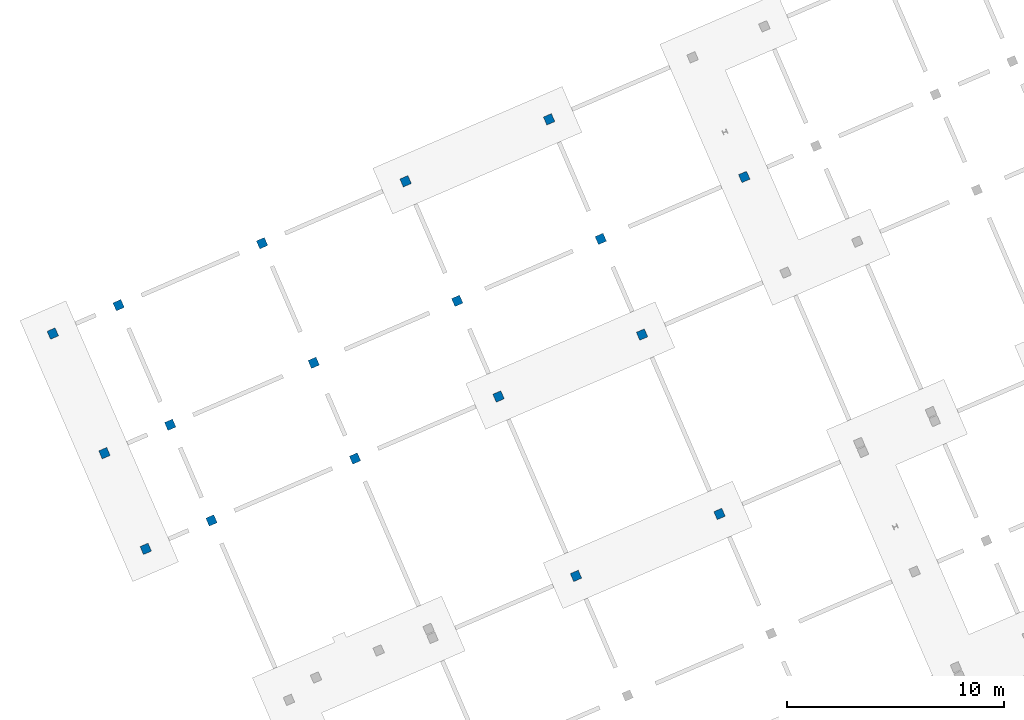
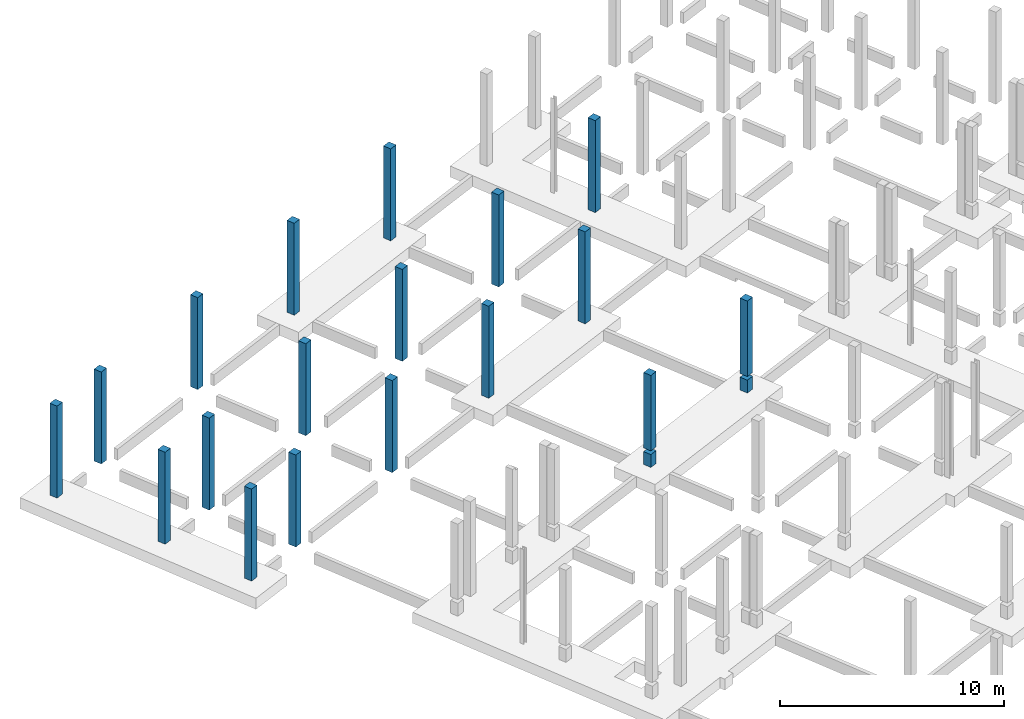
# One storey, part 5 of 11: 18 columns.
"""IFC4 building model written with IfcOpenShell, lengths in metres."""

from ifc_helpers import new_model, entity, si_unit, converted_unit, derived_unit, direction, frame, origin, place, context, subcontext, project, spatial, indexed_curve, outline, extrude, source, transform, mapped, material, type_object, type_shapes, element, save


model = new_model("IFC4")

# Units and contexts
model_context = context("Model", 3, precision=1e-05, world=origin(), true_north=direction((6.12323399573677e-17, 1.0)))
body_context = subcontext(model_context, "Body", "Model", "MODEL_VIEW")
ifc_project = project(units=[si_unit("LENGTHUNIT", "METRE"), si_unit("AREAUNIT", "SQUARE_METRE"), si_unit("VOLUMEUNIT", "CUBIC_METRE"), converted_unit("PLANEANGLEUNIT", "DEGREE", entity("IfcPlaneAngleMeasure", 0.0174532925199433), si_unit("PLANEANGLEUNIT", "RADIAN"), dimensions=[0, 0, 0, 0, 0, 0, 0]), si_unit("MASSUNIT", "GRAM", prefix="KILO"), derived_unit("MOMENTOFINERTIAUNIT", [(si_unit("LENGTHUNIT", "METRE"), 4)]), derived_unit("LINEARFORCEUNIT", [(si_unit("MASSUNIT", "GRAM", prefix="KILO"), 1), (si_unit("TIMEUNIT", "SECOND"), -2)]), derived_unit("WARPINGCONSTANTUNIT", [(si_unit("LENGTHUNIT", "METRE"), 6)]), derived_unit("THERMALTRANSMITTANCEUNIT", [(si_unit("MASSUNIT", "GRAM", prefix="KILO"), 1), (si_unit("THERMODYNAMICTEMPERATUREUNIT", "KELVIN"), -1), (si_unit("TIMEUNIT", "SECOND"), -3)]), derived_unit("USERDEFINED", [(si_unit("MASSUNIT", "GRAM", prefix="KILO"), 1), (si_unit("TIMEUNIT", "SECOND"), -2), (si_unit("THERMODYNAMICTEMPERATUREUNIT", "KELVIN"), -1)]), derived_unit("THERMALRESISTANCEUNIT", [(si_unit("MASSUNIT", "GRAM", prefix="KILO"), -1), (si_unit("TIMEUNIT", "SECOND"), 3), (si_unit("THERMODYNAMICTEMPERATUREUNIT", "KELVIN"), 1)])], contexts=[model_context])

# Site, building, storey
site_placement = place(None, origin())
site = spatial("IfcSite", under=ifc_project, at=site_placement, Name="Default", CompositionType="ELEMENT")
building_placement = place(site_placement, frame((12.6613425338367, -82.5732315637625, 317.15), z_axis=(0.0, 0.0, 1.0), x_axis=(-0.396377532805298, 0.918087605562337, 0.0)))
building = spatial("IfcBuilding", under=site, at=building_placement, Name="CESFAM Coyhaique", CompositionType="ELEMENT")
storey_placement = place(building_placement, frame((0.0, 0.0, -0.950000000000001)))
storey = spatial("IfcBuildingStorey", under=building, at=storey_placement, Name="d_Fundaciones", CompositionType="ELEMENT", Elevation=-0.950000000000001)

# Columns
ifc_material = material(Name="HA")
column_type_1 = type_object("IfcColumnType", Name="M_Concrete-Square-Column:400 x 400mm", PredefinedType="COLUMN", material=ifc_material)
shared_shape_1 = source(origin(), body_context, "Body", "SweptSolid", [
    extrude(outline(indexed_curve([(-0.199999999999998, -0.2), (0.200000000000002, -0.2), (0.200000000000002, 0.2), (-0.199999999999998, 0.2), (-0.199999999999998, -0.2)], self_intersect=False)), frame((34.768853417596, 2.8028504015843, -0.950000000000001), z_axis=(0.0, 0.0, 1.0), x_axis=(-1.0, 0.0, 0.0)), (0.0, 0.0, 1.0), 0.7),
    extrude(outline(indexed_curve([(-0.199999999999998, -0.2), (0.200000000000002, -0.2), (0.200000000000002, 0.2), (-0.199999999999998, 0.2), (-0.199999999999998, -0.2)], self_intersect=False)), frame((34.768853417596, 2.8028504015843, -0.0500000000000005), z_axis=(0.0, 0.0, 1.0), x_axis=(-1.0, 0.0, 0.0)), (0.0, 0.0, 1.0), 4.10000000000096),
])
type_shapes(column_type_1, [shared_shape_1])
column_1_placement = place(storey_placement, frame((0.0, 0.0, 0.950000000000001)))
element("IfcColumn", 1, at=column_1_placement, inside=storey, type_object=column_type_1, Name="M_Concrete-Square-Column:400 x 400mm", ObjectType="M_Concrete-Square-Column:400 x 400mm", PredefinedType="COLUMN", context=body_context, shape_type="MappedRepresentation", body=[
    mapped(shared_shape_1, transform((0.0, 0.0, 0.0), scale=1.0)),
])
column_type_2 = type_object("IfcColumnType", Name="M_Concrete-Square-Column:400 x 400mm", PredefinedType="COLUMN", material=ifc_material)
shared_shape_2 = source(origin(), body_context, "Body", "SweptSolid", [
    extrude(outline(indexed_curve([(-0.199999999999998, -0.2), (0.200000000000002, -0.2), (0.200000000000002, 0.2), (-0.199999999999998, 0.2), (-0.199999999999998, -0.2)], self_intersect=False)), frame((34.768853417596, -4.39714959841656, -0.950000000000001), z_axis=(0.0, 0.0, 1.0), x_axis=(-1.0, 0.0, 0.0)), (0.0, 0.0, 1.0), 0.7),
    extrude(outline(indexed_curve([(-0.199999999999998, -0.2), (0.200000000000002, -0.2), (0.200000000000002, 0.2), (-0.199999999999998, 0.2), (-0.199999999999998, -0.2)], self_intersect=False)), frame((34.768853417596, -4.39714959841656, -0.0500000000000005), z_axis=(0.0, 0.0, 1.0), x_axis=(-1.0, 0.0, 0.0)), (0.0, 0.0, 1.0), 4.10000000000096),
])
type_shapes(column_type_2, [shared_shape_2])
column_2_placement = place(storey_placement, frame((0.0, 0.0, 0.950000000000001)))
element("IfcColumn", 2, at=column_2_placement, inside=storey, type_object=column_type_2, Name="M_Concrete-Square-Column:400 x 400mm", ObjectType="M_Concrete-Square-Column:400 x 400mm", PredefinedType="COLUMN", context=body_context, shape_type="MappedRepresentation", body=[
    mapped(shared_shape_2, transform((0.0, 0.0, 0.0), scale=1.0)),
])
column_type_3 = type_object("IfcColumnType", Name="M_Concrete-Square-Column:400 x 400mm", PredefinedType="COLUMN", material=ifc_material)
shared_shape_3 = source(origin(), body_context, "Body", "SweptSolid", [
    extrude(outline(indexed_curve([(-0.199999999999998, -0.2), (0.199999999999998, -0.2), (0.199999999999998, 0.2), (-0.199999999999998, 0.2), (-0.199999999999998, -0.2)], self_intersect=False)), frame((43.7688534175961, 17.2028504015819, -0.950000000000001), z_axis=(0.0, 0.0, 1.0), x_axis=(-1.0, 0.0, 0.0)), (0.0, 0.0, 1.0), 5.00000000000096),
])
type_shapes(column_type_3, [shared_shape_3])
column_3_placement = place(storey_placement, frame((0.0, 0.0, 0.950000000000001)))
element("IfcColumn", 3, at=column_3_placement, inside=storey, type_object=column_type_3, Name="M_Concrete-Square-Column:400 x 400mm", ObjectType="M_Concrete-Square-Column:400 x 400mm", PredefinedType="COLUMN", context=body_context, shape_type="MappedRepresentation", body=[
    mapped(shared_shape_3, transform((0.0, 0.0, 0.0), scale=1.0)),
])
column_type_4 = type_object("IfcColumnType", Name="M_Concrete-Square-Column:400 x 400mm", PredefinedType="COLUMN", material=ifc_material)
shared_shape_4 = source(origin(), body_context, "Body", "SweptSolid", [
    extrude(outline(indexed_curve([(-0.199999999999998, -0.2), (0.199999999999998, -0.2), (0.199999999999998, 0.2), (-0.199999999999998, 0.2), (-0.199999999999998, -0.2)], self_intersect=False)), frame((43.7688534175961, 10.0028504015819, -0.950000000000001), z_axis=(0.0, 0.0, 1.0), x_axis=(-1.0, 0.0, 0.0)), (0.0, 0.0, 1.0), 5.00000000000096),
])
type_shapes(column_type_4, [shared_shape_4])
column_4_placement = place(storey_placement, frame((0.0, 0.0, 0.950000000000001)))
element("IfcColumn", 4, at=column_4_placement, inside=storey, type_object=column_type_4, Name="M_Concrete-Square-Column:400 x 400mm", ObjectType="M_Concrete-Square-Column:400 x 400mm", PredefinedType="COLUMN", context=body_context, shape_type="MappedRepresentation", body=[
    mapped(shared_shape_4, transform((0.0, 0.0, 0.0), scale=1.0)),
])
column_type_5 = type_object("IfcColumnType", Name="M_Concrete-Square-Column:400 x 400mm", PredefinedType="COLUMN", material=ifc_material)
shared_shape_5 = source(origin(), body_context, "Body", "SweptSolid", [
    extrude(outline(indexed_curve([(-0.199999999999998, -0.2), (0.199999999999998, -0.2), (0.199999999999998, 0.2), (-0.199999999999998, 0.2), (-0.199999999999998, -0.2)], self_intersect=False)), frame((43.7688534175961, 2.8028504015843, -0.950000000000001), z_axis=(0.0, 0.0, 1.0), x_axis=(-1.0, 0.0, 0.0)), (0.0, 0.0, 1.0), 5.00000000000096),
])
type_shapes(column_type_5, [shared_shape_5])
column_5_placement = place(storey_placement, frame((0.0, 0.0, 0.950000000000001)))
element("IfcColumn", 5, at=column_5_placement, inside=storey, type_object=column_type_5, Name="M_Concrete-Square-Column:400 x 400mm", ObjectType="M_Concrete-Square-Column:400 x 400mm", PredefinedType="COLUMN", context=body_context, shape_type="MappedRepresentation", body=[
    mapped(shared_shape_5, transform((0.0, 0.0, 0.0), scale=1.0)),
])
column_type_6 = type_object("IfcColumnType", Name="M_Concrete-Square-Column:400 x 400mm", PredefinedType="COLUMN", material=ifc_material)
shared_shape_6 = source(origin(), body_context, "Body", "SweptSolid", [
    extrude(outline(indexed_curve([(-0.199999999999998, -0.2), (0.199999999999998, -0.2), (0.199999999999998, 0.2), (-0.199999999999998, 0.2), (-0.199999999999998, -0.2)], self_intersect=False)), frame((43.7688534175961, -4.39714959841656, -0.950000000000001), z_axis=(0.0, 0.0, 1.0), x_axis=(-1.0, 0.0, 0.0)), (0.0, 0.0, 1.0), 5.00000000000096),
])
type_shapes(column_type_6, [shared_shape_6])
column_6_placement = place(storey_placement, frame((0.0, 0.0, 0.950000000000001)))
element("IfcColumn", 6, at=column_6_placement, inside=storey, type_object=column_type_6, Name="M_Concrete-Square-Column:400 x 400mm", ObjectType="M_Concrete-Square-Column:400 x 400mm", PredefinedType="COLUMN", context=body_context, shape_type="MappedRepresentation", body=[
    mapped(shared_shape_6, transform((0.0, 0.0, 0.0), scale=1.0)),
])
column_type_7 = type_object("IfcColumnType", Name="M_Concrete-Square-Column:400 x 400mm", PredefinedType="COLUMN", material=ifc_material)
shared_shape_7 = source(origin(), body_context, "Body", "SweptSolid", [
    extrude(outline(indexed_curve([(-0.199999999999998, -0.2), (0.199999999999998, -0.2), (0.199999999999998, 0.2), (-0.199999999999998, 0.2), (-0.199999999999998, -0.2)], self_intersect=False)), frame((48.5688534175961, 17.2028504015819, -0.950000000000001), z_axis=(0.0, 0.0, 1.0), x_axis=(-1.0, 0.0, 0.0)), (0.0, 0.0, 1.0), 5.00000000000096),
])
type_shapes(column_type_7, [shared_shape_7])
column_7_placement = place(storey_placement, frame((0.0, 0.0, 0.950000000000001)))
element("IfcColumn", 7, at=column_7_placement, inside=storey, type_object=column_type_7, Name="M_Concrete-Square-Column:400 x 400mm", ObjectType="M_Concrete-Square-Column:400 x 400mm", PredefinedType="COLUMN", context=body_context, shape_type="MappedRepresentation", body=[
    mapped(shared_shape_7, transform((0.0, 0.0, 0.0), scale=1.0)),
])
column_type_8 = type_object("IfcColumnType", Name="M_Concrete-Square-Column:400 x 400mm", PredefinedType="COLUMN", material=ifc_material)
shared_shape_8 = source(origin(), body_context, "Body", "SweptSolid", [
    extrude(outline(indexed_curve([(-0.199999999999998, -0.2), (0.199999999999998, -0.2), (0.199999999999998, 0.2), (-0.199999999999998, 0.2), (-0.199999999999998, -0.2)], self_intersect=False)), frame((48.5688534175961, 10.0028504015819, -0.950000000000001), z_axis=(0.0, 0.0, 1.0), x_axis=(-1.0, 0.0, 0.0)), (0.0, 0.0, 1.0), 5.00000000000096),
])
type_shapes(column_type_8, [shared_shape_8])
column_8_placement = place(storey_placement, frame((0.0, 0.0, 0.950000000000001)))
element("IfcColumn", 8, at=column_8_placement, inside=storey, type_object=column_type_8, Name="M_Concrete-Square-Column:400 x 400mm", ObjectType="M_Concrete-Square-Column:400 x 400mm", PredefinedType="COLUMN", context=body_context, shape_type="MappedRepresentation", body=[
    mapped(shared_shape_8, transform((0.0, 0.0, 0.0), scale=1.0)),
])
column_type_9 = type_object("IfcColumnType", Name="M_Concrete-Square-Column:400 x 400mm", PredefinedType="COLUMN", material=ifc_material)
shared_shape_9 = source(origin(), body_context, "Body", "SweptSolid", [
    extrude(outline(indexed_curve([(-0.199999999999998, -0.2), (0.199999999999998, -0.2), (0.199999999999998, 0.2), (-0.199999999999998, 0.2), (-0.199999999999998, -0.2)], self_intersect=False)), frame((48.5688534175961, 2.8028504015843, -0.950000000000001), z_axis=(0.0, 0.0, 1.0), x_axis=(-1.0, 0.0, 0.0)), (0.0, 0.0, 1.0), 5.00000000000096),
])
type_shapes(column_type_9, [shared_shape_9])
column_9_placement = place(storey_placement, frame((0.0, 0.0, 0.950000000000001)))
element("IfcColumn", 9, at=column_9_placement, inside=storey, type_object=column_type_9, Name="M_Concrete-Square-Column:400 x 400mm", ObjectType="M_Concrete-Square-Column:400 x 400mm", PredefinedType="COLUMN", context=body_context, shape_type="MappedRepresentation", body=[
    mapped(shared_shape_9, transform((0.0, 0.0, 0.0), scale=1.0)),
])
column_type_10 = type_object("IfcColumnType", Name="M_Concrete-Square-Column:400 x 400mm", PredefinedType="COLUMN", material=ifc_material)
shared_shape_10 = source(origin(), body_context, "Body", "SweptSolid", [
    extrude(outline(indexed_curve([(-0.199999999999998, -0.2), (0.199999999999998, -0.2), (0.199999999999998, 0.2), (-0.199999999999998, 0.2), (-0.199999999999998, -0.2)], self_intersect=False)), frame((48.5688534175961, -4.39714959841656, -0.950000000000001), z_axis=(0.0, 0.0, 1.0), x_axis=(-1.0, 0.0, 0.0)), (0.0, 0.0, 1.0), 5.00000000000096),
])
type_shapes(column_type_10, [shared_shape_10])
column_10_placement = place(storey_placement, frame((0.0, 0.0, 0.950000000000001)))
element("IfcColumn", 10, at=column_10_placement, inside=storey, type_object=column_type_10, Name="M_Concrete-Square-Column:400 x 400mm", ObjectType="M_Concrete-Square-Column:400 x 400mm", PredefinedType="COLUMN", context=body_context, shape_type="MappedRepresentation", body=[
    mapped(shared_shape_10, transform((0.0, 0.0, 0.0), scale=1.0)),
])
column_type_11 = type_object("IfcColumnType", Name="M_Concrete-Square-Column:400 x 400mm", PredefinedType="COLUMN", material=ifc_material)
shared_shape_11 = source(origin(), body_context, "Body", "SweptSolid", [
    extrude(outline(indexed_curve([(-0.199999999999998, -0.2), (0.199999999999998, -0.2), (0.199999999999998, 0.2), (-0.199999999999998, 0.2), (-0.199999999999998, -0.2)], self_intersect=False)), frame((48.5688534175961, -11.5971495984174, -0.950000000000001), z_axis=(0.0, 0.0, 1.0), x_axis=(-1.0, 0.0, 0.0)), (0.0, 0.0, 1.0), 5.00000000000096),
])
type_shapes(column_type_11, [shared_shape_11])
column_11_placement = place(storey_placement, frame((0.0, 0.0, 0.950000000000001)))
element("IfcColumn", 11, at=column_11_placement, inside=storey, type_object=column_type_11, Name="M_Concrete-Square-Column:400 x 400mm", ObjectType="M_Concrete-Square-Column:400 x 400mm", PredefinedType="COLUMN", context=body_context, shape_type="MappedRepresentation", body=[
    mapped(shared_shape_11, transform((0.0, 0.0, 0.0), scale=1.0)),
])
column_type_12 = type_object("IfcColumnType", Name="M_Concrete-Square-Column:400 x 400mm", PredefinedType="COLUMN", material=ifc_material)
shared_shape_12 = source(origin(), body_context, "Body", "SweptSolid", [
    extrude(outline(indexed_curve([(-0.199999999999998, -0.2), (0.199999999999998, -0.2), (0.199999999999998, 0.2), (-0.199999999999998, 0.2), (-0.199999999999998, -0.2)], self_intersect=False)), frame((54.5688534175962, 17.2028504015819, -0.950000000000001), z_axis=(0.0, 0.0, 1.0), x_axis=(-1.0, 0.0, 0.0)), (0.0, 0.0, 1.0), 5.00000000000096),
])
type_shapes(column_type_12, [shared_shape_12])
column_12_placement = place(storey_placement, frame((0.0, 0.0, 0.950000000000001)))
element("IfcColumn", 12, at=column_12_placement, inside=storey, type_object=column_type_12, Name="M_Concrete-Square-Column:400 x 400mm", ObjectType="M_Concrete-Square-Column:400 x 400mm", PredefinedType="COLUMN", context=body_context, shape_type="MappedRepresentation", body=[
    mapped(shared_shape_12, transform((0.0, 0.0, 0.0), scale=1.0)),
])
column_type_13 = type_object("IfcColumnType", Name="M_Concrete-Square-Column:400 x 400mm", PredefinedType="COLUMN", material=ifc_material)
shared_shape_13 = source(origin(), body_context, "Body", "SweptSolid", [
    extrude(outline(indexed_curve([(-0.199999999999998, -0.2), (0.199999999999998, -0.2), (0.199999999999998, 0.2), (-0.199999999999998, 0.2), (-0.199999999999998, -0.2)], self_intersect=False)), frame((54.5688534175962, 10.0028504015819, -0.950000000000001), z_axis=(0.0, 0.0, 1.0), x_axis=(-1.0, 0.0, 0.0)), (0.0, 0.0, 1.0), 5.00000000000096),
])
type_shapes(column_type_13, [shared_shape_13])
column_13_placement = place(storey_placement, frame((0.0, 0.0, 0.950000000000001)))
element("IfcColumn", 13, at=column_13_placement, inside=storey, type_object=column_type_13, Name="M_Concrete-Square-Column:400 x 400mm", ObjectType="M_Concrete-Square-Column:400 x 400mm", PredefinedType="COLUMN", context=body_context, shape_type="MappedRepresentation", body=[
    mapped(shared_shape_13, transform((0.0, 0.0, 0.0), scale=1.0)),
])
column_type_14 = type_object("IfcColumnType", Name="M_Concrete-Square-Column:400 x 400mm", PredefinedType="COLUMN", material=ifc_material)
shared_shape_14 = source(origin(), body_context, "Body", "SweptSolid", [
    extrude(outline(indexed_curve([(-0.199999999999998, -0.2), (0.199999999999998, -0.2), (0.199999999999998, 0.2), (-0.199999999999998, 0.2), (-0.199999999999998, -0.2)], self_intersect=False)), frame((54.5688534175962, 2.8028504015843, -0.950000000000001), z_axis=(0.0, 0.0, 1.0), x_axis=(-1.0, 0.0, 0.0)), (0.0, 0.0, 1.0), 5.00000000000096),
])
type_shapes(column_type_14, [shared_shape_14])
column_14_placement = place(storey_placement, frame((0.0, 0.0, 0.950000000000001)))
element("IfcColumn", 14, at=column_14_placement, inside=storey, type_object=column_type_14, Name="M_Concrete-Square-Column:400 x 400mm", ObjectType="M_Concrete-Square-Column:400 x 400mm", PredefinedType="COLUMN", context=body_context, shape_type="MappedRepresentation", body=[
    mapped(shared_shape_14, transform((0.0, 0.0, 0.0), scale=1.0)),
])
column_type_15 = type_object("IfcColumnType", Name="M_Concrete-Square-Column:400 x 400mm", PredefinedType="COLUMN", material=ifc_material)
shared_shape_15 = source(origin(), body_context, "Body", "SweptSolid", [
    extrude(outline(indexed_curve([(-0.199999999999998, -0.2), (0.199999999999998, -0.2), (0.199999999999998, 0.2), (-0.199999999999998, 0.2), (-0.199999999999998, -0.2)], self_intersect=False)), frame((54.5688534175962, -4.39714959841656, -0.950000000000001), z_axis=(0.0, 0.0, 1.0), x_axis=(-1.0, 0.0, 0.0)), (0.0, 0.0, 1.0), 5.00000000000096),
])
type_shapes(column_type_15, [shared_shape_15])
column_15_placement = place(storey_placement, frame((0.0, 0.0, 0.950000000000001)))
element("IfcColumn", 15, at=column_15_placement, inside=storey, type_object=column_type_15, Name="M_Concrete-Square-Column:400 x 400mm", ObjectType="M_Concrete-Square-Column:400 x 400mm", PredefinedType="COLUMN", context=body_context, shape_type="MappedRepresentation", body=[
    mapped(shared_shape_15, transform((0.0, 0.0, 0.0), scale=1.0)),
])
column_type_16 = type_object("IfcColumnType", Name="M_Concrete-Square-Column:400 x 400mm", PredefinedType="COLUMN", material=ifc_material)
shared_shape_16 = source(origin(), body_context, "Body", "SweptSolid", [
    extrude(outline(indexed_curve([(-0.199999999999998, -0.199999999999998), (0.199999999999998, -0.199999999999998), (0.199999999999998, 0.200000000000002), (-0.199999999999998, 0.200000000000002), (-0.199999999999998, -0.199999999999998)], self_intersect=False)), frame((43.7688534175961, 20.5028502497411, -0.950000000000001), z_axis=(0.0, 0.0, 1.0), x_axis=(-1.0, 0.0, 0.0)), (0.0, 0.0, 1.0), 5.00000000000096),
])
type_shapes(column_type_16, [shared_shape_16])
column_16_placement = place(storey_placement, frame((0.0, 0.0, 0.950000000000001)))
element("IfcColumn", 16, at=column_16_placement, inside=storey, type_object=column_type_16, Name="M_Concrete-Square-Column:400 x 400mm", ObjectType="M_Concrete-Square-Column:400 x 400mm", PredefinedType="COLUMN", context=body_context, shape_type="MappedRepresentation", body=[
    mapped(shared_shape_16, transform((0.0, 0.0, 0.0), scale=1.0)),
])
column_type_17 = type_object("IfcColumnType", Name="M_Concrete-Square-Column:400 x 400mm", PredefinedType="COLUMN", material=ifc_material)
shared_shape_17 = source(origin(), body_context, "Body", "SweptSolid", [
    extrude(outline(indexed_curve([(-0.199999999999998, -0.199999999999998), (0.199999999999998, -0.199999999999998), (0.199999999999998, 0.200000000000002), (-0.199999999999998, 0.200000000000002), (-0.199999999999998, -0.199999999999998)], self_intersect=False)), frame((48.5688534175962, 20.5028502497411, -0.950000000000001), z_axis=(0.0, 0.0, 1.0), x_axis=(-1.0, 0.0, 0.0)), (0.0, 0.0, 1.0), 5.00000000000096),
])
type_shapes(column_type_17, [shared_shape_17])
column_17_placement = place(storey_placement, frame((0.0, 0.0, 0.950000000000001)))
element("IfcColumn", 17, at=column_17_placement, inside=storey, type_object=column_type_17, Name="M_Concrete-Square-Column:400 x 400mm", ObjectType="M_Concrete-Square-Column:400 x 400mm", PredefinedType="COLUMN", context=body_context, shape_type="MappedRepresentation", body=[
    mapped(shared_shape_17, transform((0.0, 0.0, 0.0), scale=1.0)),
])
column_type_18 = type_object("IfcColumnType", Name="M_Concrete-Square-Column:400 x 400mm", PredefinedType="COLUMN", material=ifc_material)
shared_shape_18 = source(origin(), body_context, "Body", "SweptSolid", [
    extrude(outline(indexed_curve([(-0.200000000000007, -0.199999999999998), (0.199999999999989, -0.199999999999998), (0.199999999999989, 0.200000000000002), (-0.200000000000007, 0.200000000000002), (-0.200000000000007, -0.199999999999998)], self_intersect=False)), frame((54.5688534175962, 20.5028502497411, -0.950000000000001), z_axis=(0.0, 0.0, 1.0), x_axis=(-1.0, 0.0, 0.0)), (0.0, 0.0, 1.0), 5.00000000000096),
])
type_shapes(column_type_18, [shared_shape_18])
column_18_placement = place(storey_placement, frame((0.0, 0.0, 0.950000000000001)))
element("IfcColumn", 18, at=column_18_placement, inside=storey, type_object=column_type_18, Name="M_Concrete-Square-Column:400 x 400mm", ObjectType="M_Concrete-Square-Column:400 x 400mm", PredefinedType="COLUMN", context=body_context, shape_type="MappedRepresentation", body=[
    mapped(shared_shape_18, transform((0.0, 0.0, 0.0), scale=1.0)),
])

save(model, "model.ifc")
